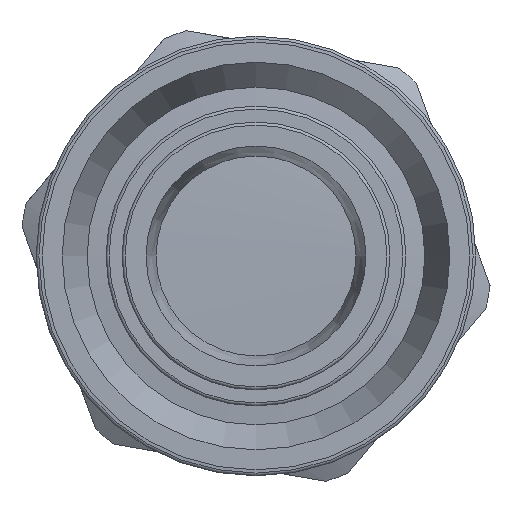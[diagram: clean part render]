
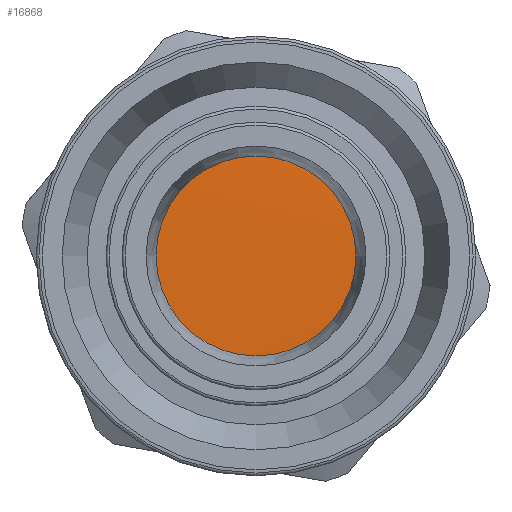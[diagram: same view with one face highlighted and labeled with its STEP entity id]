
A CAD part, left-side view. The second image highlights one B-rep face of the part: STEP entity #16868.
In plain terms, the highlighted cylindrical face has radius 10.45 mm (diameter 20.9 mm), a full revolution.
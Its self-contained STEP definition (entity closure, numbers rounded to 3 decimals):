
#1382=FACE_OUTER_BOUND('',#2348,.T.);
#2348=EDGE_LOOP('',(#11475,#11476,#11477));
#3408=B_SPLINE_CURVE_WITH_KNOTS('',3,(#22133,#22134,#22135,#22136,#22137,
#22138,#22139,#22140,#22141,#22142,#22143,#22144,#22145,#22146,#22147,#22148,
#22149,#22150,#22151,#22152,#22153,#22154,#22155,#22156,#22157,#22158,#22159,
#22160,#22161,#22162,#22163,#22164,#22165,#22166,#22167,#22168,#22169,#22170,
#22171,#22172,#22173,#22174,#22175),.UNSPECIFIED.,.F.,.F.,(4,3,3,3,3,3,
3,3,3,3,3,3,3,3,4),(-34.558,-34.204,-33.711,
-33.218,-32.725,-32.232,-31.739,
-31.246,-30.753,-30.26,-29.767,
-29.274,-28.78,-28.287,-28.274),
 .UNSPECIFIED.);
#4254=LINE('',#22130,#5652);
#4255=LINE('',#22132,#5653);
#5652=VECTOR('',#18811,10.45);
#5653=VECTOR('',#18812,10.45);
#7051=VERTEX_POINT('',#22128);
#7052=VERTEX_POINT('',#22129);
#7053=VERTEX_POINT('',#22131);
#8827=EDGE_CURVE('',#7051,#7052,#4254,.T.);
#8828=EDGE_CURVE('',#7051,#7053,#4255,.T.);
#8829=EDGE_CURVE('',#7053,#7052,#3408,.T.);
#11475=ORIENTED_EDGE('',*,*,#8827,.F.);
#11476=ORIENTED_EDGE('',*,*,#8828,.T.);
#11477=ORIENTED_EDGE('',*,*,#8829,.T.);
#16769=CYLINDRICAL_SURFACE('',#17854,10.45);
#16868=ADVANCED_FACE('',(#1382),#16769,.T.);
#17854=AXIS2_PLACEMENT_3D('',#22127,#18809,#18810);
#18809=DIRECTION('center_axis',(1.,0.,0.));
#18810=DIRECTION('ref_axis',(0.,1.,0.));
#18811=DIRECTION('',(1.,0.,0.));
#18812=DIRECTION('',(-1.,0.,0.));
#22127=CARTESIAN_POINT('Origin',(14.5,0.,0.));
#22128=CARTESIAN_POINT('',(12.5,-10.45,0.));
#22129=CARTESIAN_POINT('',(14.2,-10.45,0.));
#22130=CARTESIAN_POINT('',(14.5,-10.45,0.));
#22131=CARTESIAN_POINT('',(12.4,-10.45,0.));
#22132=CARTESIAN_POINT('',(14.5,-10.45,0.));
#22133=CARTESIAN_POINT('Ctrl Pts',(12.4,-10.45,0.));
#22134=CARTESIAN_POINT('Ctrl Pts',(12.434,-10.449,-1.231));
#22135=CARTESIAN_POINT('Ctrl Pts',(12.468,-10.231,-2.462));
#22136=CARTESIAN_POINT('Ctrl Pts',(12.501,-9.805,-3.617));
#22137=CARTESIAN_POINT('Ctrl Pts',(12.548,-9.211,-5.228));
#22138=CARTESIAN_POINT('Ctrl Pts',(12.595,-8.211,-6.689));
#22139=CARTESIAN_POINT('Ctrl Pts',(12.643,-6.925,-7.827));
#22140=CARTESIAN_POINT('Ctrl Pts',(12.69,-5.639,-8.965));
#22141=CARTESIAN_POINT('Ctrl Pts',(12.737,-4.067,-9.779));
#22142=CARTESIAN_POINT('Ctrl Pts',(12.784,-2.395,-10.173));
#22143=CARTESIAN_POINT('Ctrl Pts',(12.831,-0.724,
-10.566));
#22144=CARTESIAN_POINT('Ctrl Pts',(12.878,1.046,-10.539));
#22145=CARTESIAN_POINT('Ctrl Pts',(12.925,2.705,-10.095));
#22146=CARTESIAN_POINT('Ctrl Pts',(12.972,4.363,-9.65));
#22147=CARTESIAN_POINT('Ctrl Pts',(13.019,5.91,-8.789));
#22148=CARTESIAN_POINT('Ctrl Pts',(13.066,7.161,-7.612));
#22149=CARTESIAN_POINT('Ctrl Pts',(13.113,8.411,-6.436));
#22150=CARTESIAN_POINT('Ctrl Pts',(13.16,9.366,-4.944));
#22151=CARTESIAN_POINT('Ctrl Pts',(13.208,9.911,-3.316));
#22152=CARTESIAN_POINT('Ctrl Pts',(13.255,10.456,-1.688));
#22153=CARTESIAN_POINT('Ctrl Pts',(13.302,10.591,0.078));
#22154=CARTESIAN_POINT('Ctrl Pts',(13.349,10.3,1.77));
#22155=CARTESIAN_POINT('Ctrl Pts',(13.396,10.009,3.462));
#22156=CARTESIAN_POINT('Ctrl Pts',(13.443,9.293,5.081));
#22157=CARTESIAN_POINT('Ctrl Pts',(13.49,8.235,6.434));
#22158=CARTESIAN_POINT('Ctrl Pts',(13.537,7.178,7.787));
#22159=CARTESIAN_POINT('Ctrl Pts',(13.584,5.781,8.874));
#22160=CARTESIAN_POINT('Ctrl Pts',(13.631,4.209,9.566));
#22161=CARTESIAN_POINT('Ctrl Pts',(13.678,2.637,10.257));
#22162=CARTESIAN_POINT('Ctrl Pts',(13.725,0.892,10.553));
#22163=CARTESIAN_POINT('Ctrl Pts',(13.773,-0.82,10.419));
#22164=CARTESIAN_POINT('Ctrl Pts',(13.82,-2.532,10.284));
#22165=CARTESIAN_POINT('Ctrl Pts',(13.867,-4.21,9.718));
#22166=CARTESIAN_POINT('Ctrl Pts',(13.914,-5.654,8.79));
#22167=CARTESIAN_POINT('Ctrl Pts',(13.961,-7.098,7.861));
#22168=CARTESIAN_POINT('Ctrl Pts',(14.008,-8.308,6.568));
#22169=CARTESIAN_POINT('Ctrl Pts',(14.055,-9.141,5.067));
#22170=CARTESIAN_POINT('Ctrl Pts',(14.102,-9.973,3.565));
#22171=CARTESIAN_POINT('Ctrl Pts',(14.149,-10.427,1.854));
#22172=CARTESIAN_POINT('Ctrl Pts',(14.196,-10.45,0.137));
#22173=CARTESIAN_POINT('Ctrl Pts',(14.198,-10.451,0.091));
#22174=CARTESIAN_POINT('Ctrl Pts',(14.199,-10.451,0.046));
#22175=CARTESIAN_POINT('Ctrl Pts',(14.2,-10.451,0.));
